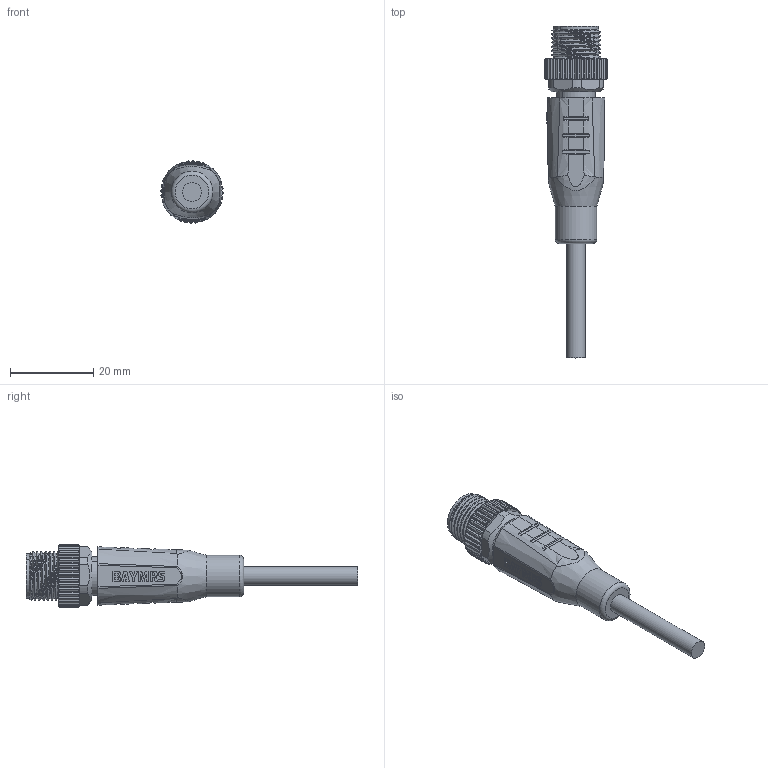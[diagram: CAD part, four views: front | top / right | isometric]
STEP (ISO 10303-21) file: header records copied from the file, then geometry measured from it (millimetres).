
FILE_DESCRIPTION(/* description */ (''),/* implementation_level */ '2;1');
FILE_NAME(/* name */ 'M12-8MS.P-L.stp',/* time_stamp */ '2022-01-19T15:06:45+08:00',/* author */ (''),/* organization */ (''),/* preprocessor_version */ 'ST-DEVELOPER v16.7',/* originating_system */ 'SIEMENS PLM Software NX 12.0',/* authorisation */ '');
FILE_SCHEMA (('AP203_CONFIGURATION_CONTROLLED_3D_DESIGN_OF_MECHANICAL_PARTS_AND_ASSEMBLIES_MIM_LF { 1 0 10303 403 2 1 2}'));
Length unit declared in the file: millimetre
Products named in the file (1): Admi2CD83BE1xu7d
Bounding box: 15 x 79.8 x 15 mm (x, y, z)
Volume: 6598.9 mm3; surface area: 4714 mm2
Topology: 1 solids, 9 shells, 542 faces, 1517 edges, 1006 vertices
Faces by surface type: plane 214, cylinder 175, cone 93, bspline 24, extrusion 22, sphere 8, torus 6
Full cylindrical faces by diameter (mm): 0.8 x16, 0.9 x16, 4.5 x1, 9.5 x1, 10 x1
Entity records: 20312 total; most frequent: CARTESIAN_POINT 7047, ORIENTED_EDGE 2846, DIRECTION 2541, EDGE_CURVE 1423, VERTEX_POINT 970, AXIS2_PLACEMENT_3D 945, VECTOR 651, EDGE_LOOP 629
